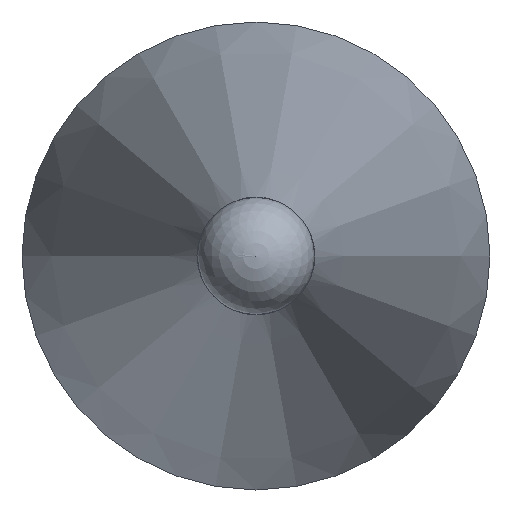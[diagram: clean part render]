
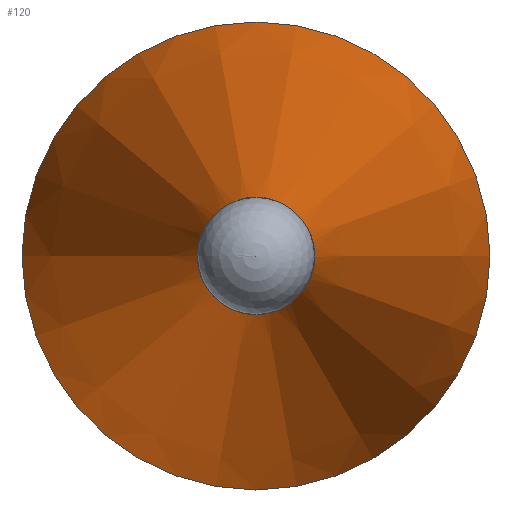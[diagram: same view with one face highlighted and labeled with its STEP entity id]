
A CAD part, left-side view. The second image highlights one B-rep face of the part: STEP entity #120.
In plain terms, the highlighted conical face has half-angle 12 degrees and reference radius 3 mm.
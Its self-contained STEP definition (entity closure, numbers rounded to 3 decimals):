
#97=CONICAL_SURFACE('',#193,3.,12.);
#99=B_SPLINE_CURVE_WITH_KNOTS('',3,(#245,#246,#247,#248,#249,#250,#251,
#252,#253,#254),.UNSPECIFIED.,.T.,.F.,(2,2,2,2,2,2,2),(-0.25,0.,0.25,0.5,
0.75,1.,1.25),.UNSPECIFIED.);
#107=FACE_BOUND('',#135,.T.);
#108=FACE_BOUND('',#136,.T.);
#120=ADVANCED_FACE('',(#107,#108),#97,.T.);
#135=EDGE_LOOP('',(#151));
#136=EDGE_LOOP('',(#152));
#151=ORIENTED_EDGE('',*,*,#173,.T.);
#152=ORIENTED_EDGE('',*,*,#174,.F.);
#165=VERTEX_POINT('',#255);
#166=VERTEX_POINT('',#258);
#173=EDGE_CURVE('',#165,#165,#99,.T.);
#174=EDGE_CURVE('',#166,#166,#181,.T.);
#181=CIRCLE('',#192,3.);
#192=AXIS2_PLACEMENT_3D('',#257,#216,#217);
#193=AXIS2_PLACEMENT_3D('',#259,#218,#219);
#216=DIRECTION('',(1.,0.,0.));
#217=DIRECTION('',(0.,1.,0.));
#218=DIRECTION('',(1.,0.,0.));
#219=DIRECTION('',(0.,1.,0.));
#245=CARTESIAN_POINT('',(7901.912,6104.045,-0.396));
#246=CARTESIAN_POINT('',(7901.912,6104.045,0.396));
#247=CARTESIAN_POINT('',(7901.912,6103.684,0.756));
#248=CARTESIAN_POINT('',(7901.912,6102.892,0.756));
#249=CARTESIAN_POINT('',(7901.912,6102.532,0.396));
#250=CARTESIAN_POINT('',(7901.912,6102.532,-0.396));
#251=CARTESIAN_POINT('',(7901.912,6102.892,-0.756));
#252=CARTESIAN_POINT('',(7901.912,6103.684,-0.756));
#253=CARTESIAN_POINT('',(7901.912,6104.045,-0.396));
#254=CARTESIAN_POINT('',(7901.912,6104.045,0.396));
#255=CARTESIAN_POINT('',(7901.912,6104.045,0.));
#257=CARTESIAN_POINT('',(7912.467,6103.288,0.));
#258=CARTESIAN_POINT('',(7912.467,6106.288,0.));
#259=CARTESIAN_POINT('',(7912.467,6103.288,0.));
